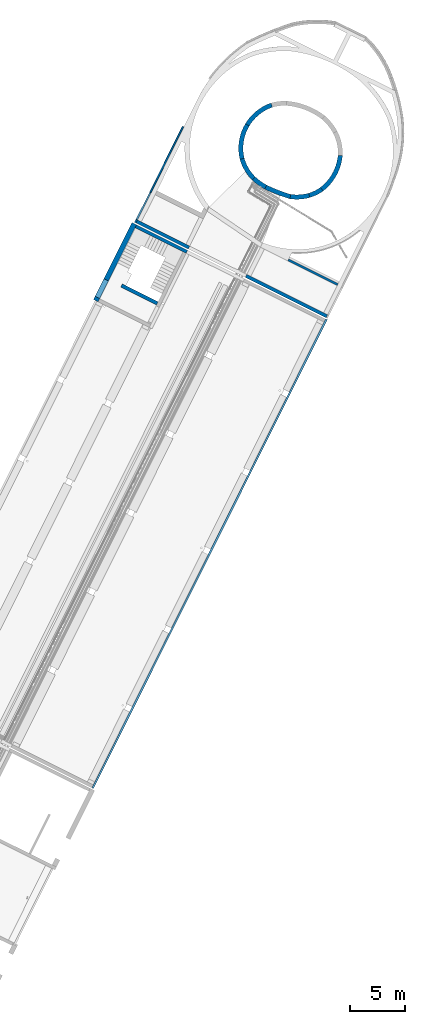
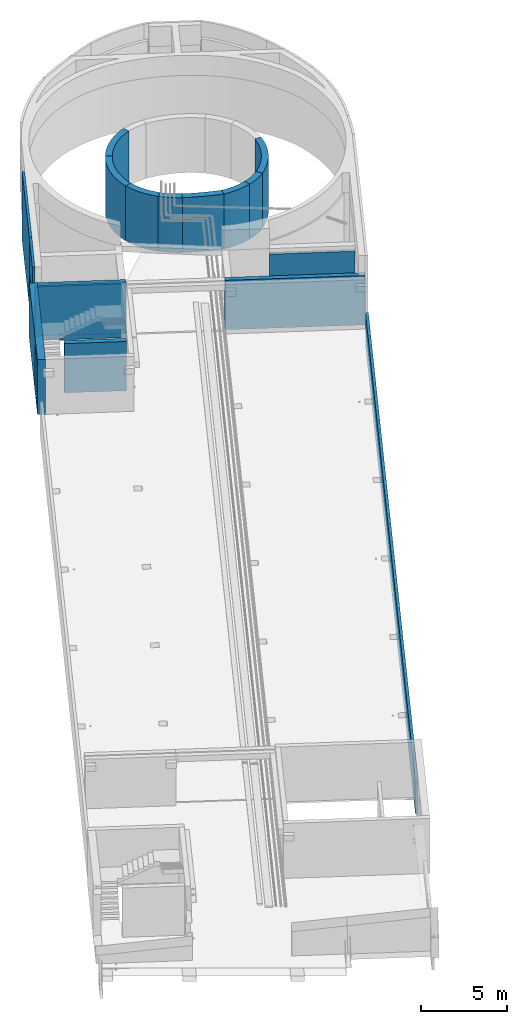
# One storey, part 8 of 47: 17 walls, 3 openings.
"""IFC2X3 building model written with IfcOpenShell, lengths in metres."""

from ifc_helpers import new_model, entity, si_unit, converted_unit, derived_unit, direction, frame, frame_2d, origin, place, context, subcontext, project, spatial, polyline, circle_curve, parameter, trimmed, segment, composite_curve, rectangle, outline, extrude, clip, bounded_halfspace, material, layer, layer_set, layer_usage, type_object, element, save


model = new_model("IFC2X3")

# Units and contexts
model_context = context("Model", 3, precision=1e-05, world=origin(), true_north=direction((0.894925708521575, 0.446215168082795)))
context_of_model = context(None, 3, precision=1e-05, world=origin(), true_north=direction((0.894925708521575, 0.446215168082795)))
body_context = subcontext(model_context, "Body", "Model", "MODEL_VIEW")
ifc_project = project(units=[si_unit("LENGTHUNIT", "METRE"), si_unit("AREAUNIT", "SQUARE_METRE"), si_unit("VOLUMEUNIT", "CUBIC_METRE"), converted_unit("PLANEANGLEUNIT", "DEGREE", entity("IfcRatioMeasure", 0.0174532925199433), si_unit("PLANEANGLEUNIT", "RADIAN"), dimensions=[0, 0, 0, 0, 0, 0, 0]), si_unit("MASSUNIT", "GRAM", prefix="KILO"), si_unit("TIMEUNIT", "SECOND"), si_unit("FREQUENCYUNIT", "HERTZ"), si_unit("THERMODYNAMICTEMPERATUREUNIT", "DEGREE_CELSIUS"), derived_unit("THERMALTRANSMITTANCEUNIT", [(si_unit("MASSUNIT", "GRAM", prefix="KILO"), 1), (si_unit("THERMODYNAMICTEMPERATUREUNIT", "KELVIN"), -1), (si_unit("TIMEUNIT", "SECOND"), -3)]), derived_unit("VOLUMETRICFLOWRATEUNIT", [(si_unit("LENGTHUNIT", "METRE"), 3), (si_unit("TIMEUNIT", "SECOND"), -1)]), si_unit("ELECTRICCURRENTUNIT", "AMPERE"), si_unit("ELECTRICVOLTAGEUNIT", "VOLT"), si_unit("POWERUNIT", "WATT"), si_unit("FORCEUNIT", "NEWTON", prefix="KILO"), si_unit("ILLUMINANCEUNIT", "LUX"), si_unit("LUMINOUSFLUXUNIT", "LUMEN"), si_unit("LUMINOUSINTENSITYUNIT", "CANDELA"), si_unit("PRESSUREUNIT", "PASCAL")], contexts=[model_context, context_of_model])

# Site, building, storey
site_placement = place(None, frame((218.228324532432, 584.720189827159, 0.0), z_axis=(0.0, 0.0, 1.0), x_axis=(0.446215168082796, 0.894925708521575, 0.0)))
site = spatial("IfcSite", under=ifc_project, at=site_placement, Name="Default", CompositionType="ELEMENT")
building_placement = place(site_placement, origin())
building = spatial("IfcBuilding", under=site, at=building_placement, CompositionType="ELEMENT")
storey_placement = place(building_placement, frame((0.0, 0.0, 4.69)))
storey = spatial("IfcBuildingStorey", under=building, at=storey_placement, Name="1 - Piano Primo", CompositionType="ELEMENT", Elevation=4.69)

# Wall, opening
ifc_material_1 = material(Name="Alluminio")
ifc_layer_1 = layer(ifc_material_1, 0.15)
ifc_material_2 = material(Name="Default - Calcestruzzo")
ifc_layer_2 = layer(ifc_material_2, 0.3)
ifc_material_3 = material(Name="Intonaco - Bianco")
ifc_layer_3 = layer(ifc_material_3, 0.02)
ifc_layer_set_1 = layer_set([ifc_layer_1, ifc_layer_2, ifc_layer_3], Name="Muro di base:Setto CA rivestito int-est 47 cm")
ifc_layer_usage_1 = layer_usage(ifc_layer_set_1, "AXIS2", "NEGATIVE", 0.235)
wall_type_1 = type_object("IfcWallType", Name="Muro di base:Setto CA rivestito int-est 47 cm", PredefinedType="STANDARD", material=ifc_layer_set_1)
wall_1_placement = place(storey_placement, frame((51.0059369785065, 6.2239210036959, 0.0)))
wall_1 = element("IfcWallStandardCase", 1, at=wall_1_placement, inside=storey, type_object=wall_type_1, material=ifc_layer_usage_1, Name="Muro di base:Setto CA rivestito int-est 47 cm", ObjectType="Muro di base:Setto CA rivestito int-est 47 cm", context=body_context, shape_type="SweptSolid", body=[
    extrude(rectangle(XDim=7.82999999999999, YDim=0.469999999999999, at=frame_2d((3.91499999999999, 0.0), x_axis=(-1.0, 0.0))), origin(), (0.0, 0.0, 1.0), 3.92),
])
opening_1_placement = place(wall_1_placement, frame((0.319999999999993, -1.289, 0.159999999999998)))
element("IfcOpeningElement", 2, at=opening_1_placement, cuts=wall_1, Name="Muro di base:Setto CA rivestito int-est 47 cm", ObjectType="Opening", context=body_context, shape_type="SweptSolid", body=[
    extrude(rectangle(XDim=3.35, YDim=1.8, at=frame_2d((2.22044604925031e-16, 4.32986979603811e-15), x_axis=(1.0, 0.0))), frame((0.900000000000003, 0.0, 1.675), z_axis=(0.0, 1.0, 0.0), x_axis=(0.0, 0.0, -1.0)), (0.0, 0.0, 1.0), 3.048),
])

# Walls
ifc_layer_4 = layer(ifc_material_2, 0.3)
ifc_layer_5 = layer(ifc_material_3, 0.01)
ifc_layer_set_2 = layer_set([ifc_layer_4, ifc_layer_5], Name="Muro di base:Setto CA rivestito int - 31 cm")
ifc_layer_usage_2 = layer_usage(ifc_layer_set_2, "AXIS2", "NEGATIVE", 0.155)
wall_type_2 = type_object("IfcWallType", Name="Muro di base:Setto CA rivestito int - 31 cm", PredefinedType="STANDARD", material=ifc_layer_set_2)
wall_2_placement = place(storey_placement, frame((58.6809369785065, 5.9889210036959, 0.0), z_axis=(0.0, 0.0, 1.0), x_axis=(0.0, -1.0, 0.0)))
element("IfcWallStandardCase", 3, at=wall_2_placement, inside=storey, type_object=wall_type_2, material=ifc_layer_usage_2, Name="Muro di base:Setto CA rivestito int - 31 cm", ObjectType="Muro di base:Setto CA rivestito int - 31 cm", context=body_context, shape_type="SweptSolid", body=[
    extrude(rectangle(XDim=5.19000000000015, YDim=0.309999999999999, at=frame_2d((2.59500000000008, 0.0), x_axis=(-1.0, 0.0))), origin(), (0.0, 0.0, 1.0), 3.92),
])
ifc_layer_6 = layer(ifc_material_3, 0.01)
ifc_layer_7 = layer(ifc_material_2, 0.4)
ifc_layer_set_3 = layer_set([ifc_layer_6, ifc_layer_7], Name="Muro di base:Setto CA intonacato int - 41 cm")
ifc_layer_usage_3 = layer_usage(ifc_layer_set_3, "AXIS2", "POSITIVE", -0.205)
wall_type_3 = type_object("IfcWallType", Name="Muro di base:Setto CA intonacato int - 41 cm", PredefinedType="STANDARD", material=ifc_layer_set_3)
wall_3_placement = place(storey_placement, frame((72.7535282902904, -7.76748426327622, 0.0), z_axis=(0.0, 0.0, 1.0), x_axis=(-0.432595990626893, -0.901587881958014, 0.0)))
element("IfcWallStandardCase", 4, at=wall_3_placement, inside=storey, type_object=wall_type_3, material=ifc_layer_usage_3, Name="Muro di base:Setto CA intonacato int - 41 cm", ObjectType="Muro di base:Setto CA intonacato int - 41 cm", context=body_context, shape_type="SweptSolid", body=[
    extrude(outline(composite_curve([segment(trimmed(circle_curve(frame_2d((-3.01054474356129, -3.21887026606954), x_axis=(1.0, 0.0)), 4.61232406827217), [parameter(359.999999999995)], [parameter(46.9153847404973)], True, "PARAMETER"), True, "CONTINUOUS"), segment(polyline([(0.140030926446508, 0.149720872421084), (-0.133743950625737, -0.15561304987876)]), True, "CONTINUOUS"), segment(trimmed(circle_curve(frame_2d((-3.01054474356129, -3.21887026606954), x_axis=(1.0, 0.0)), 4.20232406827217), [parameter(0.114022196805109)], [parameter(46.7979049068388)], True, "PARAMETER"), False, "CONTINUOUS"), segment(polyline([(1.19177100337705, -3.21050738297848), (1.60177932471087, -3.21887026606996)]), True, "CONTINUOUS")], self_intersect=False)), origin(), (0.0, 0.0, 1.0), 3.92),
])
ifc_layer_usage_4 = layer_usage(ifc_layer_set_3, "AXIS2", "POSITIVE", -0.205)
wall_4_placement = place(storey_placement, frame((71.4703263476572, 1.0328184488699, 0.0), z_axis=(0.0, 0.0, 1.0), x_axis=(0.700325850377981, 0.713823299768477, 0.0)))
element("IfcWallStandardCase", 5, at=wall_4_placement, inside=storey, type_object=wall_type_3, material=ifc_layer_usage_4, Name="Muro di base:Setto CA intonacato int - 41 cm", ObjectType="Muro di base:Setto CA intonacato int - 41 cm", context=body_context, shape_type="SweptSolid", body=[
    extrude(outline(composite_curve([segment(trimmed(circle_curve(frame_2d((-3.22612707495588, -2.68645145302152), x_axis=(1.0, 0.0)), 4.40320405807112), [parameter(359.999999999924)], [parameter(39.784730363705)], True, "PARAMETER"), True, "CONTINUOUS"), segment(polyline([(0.157533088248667, 0.131180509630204), (-0.156956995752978, -0.131872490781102)]), True, "CONTINUOUS"), segment(trimmed(circle_curve(frame_2d((-3.22612707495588, -2.68645145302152), x_axis=(1.0, 0.0)), 3.99320405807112), [parameter(0.165656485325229)], [parameter(39.7718111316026)], True, "PARAMETER"), False, "CONTINUOUS"), segment(polyline([(0.767060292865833, -2.67490611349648), (1.17707698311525, -2.68645145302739)]), True, "CONTINUOUS")], self_intersect=False)), origin(), (0.0, 0.0, 1.0), 3.92),
])
ifc_layer_usage_5 = layer_usage(ifc_layer_set_3, "AXIS2", "POSITIVE", -0.205)
wall_5_placement = place(storey_placement, frame((67.3641992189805, -1.66068029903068, 0.0), z_axis=(0.0, 0.0, 1.0), x_axis=(-0.727124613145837, 0.686505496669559, 0.0)))
element("IfcWallStandardCase", 6, at=wall_5_placement, inside=storey, type_object=wall_type_3, material=ifc_layer_usage_5, Name="Muro di base:Setto CA intonacato int - 41 cm", ObjectType="Muro di base:Setto CA intonacato int - 41 cm", context=body_context, shape_type="SweptSolid", body=[
    extrude(outline(composite_curve([segment(trimmed(circle_curve(frame_2d((-3.78593377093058, -1.75768012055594), x_axis=(1.0, 0.0)), 4.37905485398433), [parameter(356.075090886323)], [parameter(24.9038369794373)], True, "PARAMETER"), True, "CONTINUOUS"), segment(polyline([(0.18593824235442, 0.086324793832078), (-0.183564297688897, -0.0914476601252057)]), True, "CONTINUOUS"), segment(trimmed(circle_curve(frame_2d((-3.78593377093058, -1.75768012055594), x_axis=(1.0, 0.0)), 3.96905485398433), [parameter(356.222668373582)], [parameter(24.8223308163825)], True, "PARAMETER"), False, "CONTINUOUS"), segment(polyline([(0.174498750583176, -2.01915799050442), (0.582850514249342, -2.05742214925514)]), True, "CONTINUOUS")], self_intersect=False)), origin(), (0.0, 0.0, 1.0), 3.92),
])
ifc_layer_usage_6 = layer_usage(ifc_layer_set_3, "AXIS2", "POSITIVE", -0.205)
wall_6_placement = place(storey_placement, frame((67.1496078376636, -3.00064880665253, 0.0), z_axis=(0.0, 0.0, 1.0), x_axis=(-0.956988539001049, 0.29012572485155, 0.0)))
element("IfcWallStandardCase", 7, at=wall_6_placement, inside=storey, type_object=wall_type_3, material=ifc_layer_usage_6, Name="Muro di base:Setto CA intonacato int - 41 cm", ObjectType="Muro di base:Setto CA intonacato int - 41 cm", context=body_context, shape_type="SweptSolid", body=[
    extrude(outline(composite_curve([segment(trimmed(circle_curve(frame_2d((-4.88110562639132, -1.35026256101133), x_axis=(1.0, 0.0)), 5.26942505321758), [parameter(359.999999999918)], [parameter(15.4630661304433)], True, "PARAMETER"), True, "CONTINUOUS"), segment(polyline([(0.197579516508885, 0.0546565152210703), (-0.195611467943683, -0.0617920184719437)]), True, "CONTINUOUS"), segment(trimmed(circle_curve(frame_2d((-4.88110562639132, -1.35026256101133), x_axis=(1.0, 0.0)), 4.85942505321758), [parameter(0.0671506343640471)], [parameter(15.3757925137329)], True, "PARAMETER"), False, "CONTINUOUS"), segment(polyline([(-0.0216839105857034, -1.34456731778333), (0.388319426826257, -1.35026256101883)]), True, "CONTINUOUS")], self_intersect=False)), origin(), (0.0, 0.0, 1.0), 3.92),
])
ifc_layer_usage_7 = layer_usage(ifc_layer_set_3, "AXIS2", "POSITIVE", -0.205)
wall_7_placement = place(storey_placement, frame((67.3758956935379, -5.39443917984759, 0.0), z_axis=(0.0, 0.0, 1.0), x_axis=(-0.999926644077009, -0.0121122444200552, 0.0)))
element("IfcWallStandardCase", 8, at=wall_7_placement, inside=storey, type_object=wall_type_3, material=ifc_layer_usage_7, Name="Muro di base:Setto CA intonacato int - 41 cm", ObjectType="Muro di base:Setto CA intonacato int - 41 cm", context=body_context, shape_type="SweptSolid", body=[
    extrude(outline(composite_curve([segment(trimmed(circle_curve(frame_2d((-14.5573128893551, -2.40385476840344), x_axis=(1.0, 0.0)), 14.9594527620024), [parameter(7.63333123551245e-13)], [parameter(9.37665779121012)], True, "PARAMETER"), True, "CONTINUOUS"), segment(polyline([(0.202260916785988, 0.0333994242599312), (-0.197289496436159, -0.0637043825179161)]), True, "CONTINUOUS"), segment(trimmed(circle_curve(frame_2d((-14.5573128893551, -2.40385476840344), x_axis=(1.0, 0.0)), 14.5494527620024), [parameter(0.0299347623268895)], [parameter(9.2557216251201)], True, "PARAMETER"), False, "CONTINUOUS"), segment(polyline([(-0.0078621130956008, -2.39625325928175), (0.402139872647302, -2.40385476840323)]), True, "CONTINUOUS")], self_intersect=False)), origin(), (0.0, 0.0, 1.0), 3.92),
])
ifc_layer_usage_8 = layer_usage(ifc_layer_set_3, "AXIS2", "POSITIVE", -0.205)
wall_8_placement = place(storey_placement, frame((68.2405251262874, -6.86210125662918, 0.0), z_axis=(0.0, 0.0, 1.0), x_axis=(-0.948364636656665, -0.31718214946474, 0.0)))
element("IfcWallStandardCase", 9, at=wall_8_placement, inside=storey, type_object=wall_type_3, material=ifc_layer_usage_8, Name="Muro di base:Setto CA intonacato int - 41 cm", ObjectType="Muro di base:Setto CA intonacato int - 41 cm", context=body_context, shape_type="SweptSolid", body=[
    extrude(outline(composite_curve([segment(trimmed(circle_curve(frame_2d((-3.90742253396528, -1.69614852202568), x_axis=(1.0, 0.0)), 4.4646796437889), [parameter(2.3103549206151e-11)], [parameter(23.4648800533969)], True, "PARAMETER"), True, "CONTINUOUS"), segment(polyline([(0.188047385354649, 0.0816283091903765), (-0.186482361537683, -0.0852384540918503)]), True, "CONTINUOUS"), segment(trimmed(circle_curve(frame_2d((-3.90742253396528, -1.69614852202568), x_axis=(1.0, 0.0)), 4.0546796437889), [parameter(0.419338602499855)], [parameter(23.4092786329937)], True, "PARAMETER"), False, "CONTINUOUS"), segment(polyline([(0.147148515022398, -1.66647323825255), (0.557257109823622, -1.69614852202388)]), True, "CONTINUOUS")], self_intersect=False)), origin(), (0.0, 0.0, 1.0), 3.92),
])
ifc_layer_usage_9 = layer_usage(ifc_layer_set_3, "AXIS2", "POSITIVE", -0.205)
wall_9_placement = place(storey_placement, frame((69.2546324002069, -7.63809080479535, 0.0), z_axis=(0.0, 0.0, 1.0), x_axis=(-0.730703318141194, -0.682695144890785, 0.0)))
element("IfcWallStandardCase", 10, at=wall_9_placement, inside=storey, type_object=wall_type_3, material=ifc_layer_usage_9, Name="Muro di base:Setto CA intonacato int - 41 cm", ObjectType="Muro di base:Setto CA intonacato int - 41 cm", context=body_context, shape_type="SweptSolid", body=[
    extrude(outline(composite_curve([segment(trimmed(circle_curve(frame_2d((-3.67227557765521, -1.26326947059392), x_axis=(1.0, 0.0)), 4.08848524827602), [parameter(359.999999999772)], [parameter(18.9833101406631)], True, "PARAMETER"), True, "CONTINUOUS"), segment(polyline([(0.193850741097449, 0.0666850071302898), (-0.191156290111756, -0.0745465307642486)]), True, "CONTINUOUS"), segment(trimmed(circle_curve(frame_2d((-3.67227557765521, -1.26326947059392), x_axis=(1.0, 0.0)), 3.67848524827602), [parameter(0.0610019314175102)], [parameter(18.8538671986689)], True, "PARAMETER"), False, "CONTINUOUS"), segment(polyline([(0.00620758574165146, -1.2593530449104), (0.416209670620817, -1.2632694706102)]), True, "CONTINUOUS")], self_intersect=False)), origin(), (0.0, 0.0, 1.0), 3.92),
])
ifc_layer_usage_10 = layer_usage(ifc_layer_set_3, "AXIS2", "POSITIVE", -0.205)
wall_10_placement = place(storey_placement, frame((68.4842258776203, 0.0781020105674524, 0.0)))
element("IfcWallStandardCase", 11, at=wall_10_placement, inside=storey, type_object=wall_type_3, material=ifc_layer_usage_10, Name="Muro di base:Setto CA intonacato int - 41 cm", ObjectType="Muro di base:Setto CA intonacato int - 41 cm", context=body_context, shape_type="SweptSolid", body=[
    extrude(outline(composite_curve([segment(polyline([(-0.131399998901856, 0.157350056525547), (0.139254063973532, -0.150808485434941)]), True, "CONTINUOUS"), segment(trimmed(circle_curve(frame_2d((2.66661045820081, -3.19323675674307), x_axis=(1.0, 0.0)), 3.95523705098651), [parameter(85.5962125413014)], [parameter(129.716537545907)], True, "PARAMETER"), False, "CONTINUOUS"), segment(polyline([(2.97031308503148, 0.750323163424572), (3.00278525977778, 1.15903632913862)]), True, "CONTINUOUS"), segment(trimmed(circle_curve(frame_2d((2.66661045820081, -3.19323675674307), x_axis=(1.0, 0.0)), 4.36523705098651), [parameter(85.5831751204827)], [parameter(129.864606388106)], True, "PARAMETER"), True, "CONTINUOUS")], self_intersect=False)), origin(), (0.0, 0.0, 1.0), 3.92),
])
ifc_material_4 = material(Name="Sabbia e Calcestruzzo")
ifc_layer_8 = layer(ifc_material_4, 0.2)
ifc_layer_set_4 = layer_set([ifc_layer_8], Name="Muro di base:Blocchetti - 20 cm")
ifc_layer_usage_11 = layer_usage(ifc_layer_set_4, "AXIS2", "NEGATIVE", 0.1)
wall_type_4 = type_object("IfcWallType", Name="Muro di base:Blocchetti - 20 cm", PredefinedType="STANDARD", material=ifc_layer_set_4)
wall_11_placement = place(storey_placement, frame((62.1360591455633, -7.781081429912, 0.0), z_axis=(0.0, 0.0, 1.0), x_axis=(-2.43360728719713e-05, -1.0, 0.0)))
element("IfcWallStandardCase", 12, at=wall_11_placement, inside=storey, type_object=wall_type_4, material=ifc_layer_usage_11, Name="Muro di base:Blocchetti - 20 cm", ObjectType="Muro di base:Blocchetti - 20 cm", context=body_context, shape_type="SweptSolid", body=[
    extrude(rectangle(XDim=5.02000000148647, YDim=0.199999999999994, at=frame_2d((2.51000000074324, 0.0), x_axis=(-1.0, 0.0))), origin(), (0.0, 0.0, 1.0), 3.12),
])

# Wall, opening
ifc_layer_9 = layer(ifc_material_1, 0.15)
ifc_layer_set_5 = layer_set([ifc_layer_9], Name="Muro di base:Rivestimento 15 cm")
ifc_layer_usage_12 = layer_usage(ifc_layer_set_5, "AXIS2", "NEGATIVE", 0.075)
wall_type_5 = type_object("IfcWallType", Name="Muro di base:Rivestimento 15 cm", PredefinedType="STANDARD", material=ifc_layer_set_5)
wall_12_placement = place(storey_placement, frame((58.9662239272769, 6.19392045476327, 0.0), z_axis=(0.0, 0.0, 1.0), x_axis=(0.999992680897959, -0.00382598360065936, 0.0)))
wall_12 = element("IfcWallStandardCase", 13, at=wall_12_placement, inside=storey, type_object=wall_type_5, material=ifc_layer_usage_12, Name="Muro di base:Rivestimento 15 cm", ObjectType="Muro di base:Rivestimento 15 cm", context=body_context, shape_type="SweptSolid", body=[
    extrude(outline(polyline([(3.07002246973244, -0.075), (3.06959885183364, 0.0749999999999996), (0.0, 0.0749999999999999), (0.0, -0.0749999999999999), (3.07002246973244, -0.075)])), origin(), (0.0, 0.0, 1.0), 4.95),
])
opening_2_placement = place(wall_12_placement, frame((0.310040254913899, -1.60952137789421, 1.0)))
element("IfcOpeningElement", 14, at=opening_2_placement, cuts=wall_12, Name="Muro di base:Rivestimento 15 cm", ObjectType="Opening", context=body_context, shape_type="SweptSolid", body=[
    extrude(rectangle(XDim=1.6, YDim=2.74999999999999, at=frame_2d((0.0, 0.0), x_axis=(0.0, 1.0))), frame((1.37495974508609, 0.0105213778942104, 0.799999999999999), z_axis=(0.0, 1.0, 0.0), x_axis=(1.0, 0.0, 0.0)), (0.0, 0.0, 1.0), 3.048),
])

# Wall
ifc_layer_usage_13 = layer_usage(ifc_layer_set_5, "AXIS2", "NEGATIVE", 0.075)
wall_13_placement = place(storey_placement, frame((62.0358003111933, 6.18217502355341, 0.0), z_axis=(0.0, 0.0, 1.0), x_axis=(0.999998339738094, 0.00182222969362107, 0.0)))
element("IfcWallStandardCase", 15, at=wall_13_placement, inside=storey, type_object=wall_type_5, material=ifc_layer_usage_13, Name="Muro di base:Rivestimento 15 cm", ObjectType="Muro di base:Rivestimento 15 cm", context=body_context, shape_type="SweptSolid", body=[
    extrude(outline(polyline([(6.67832109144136, -0.0750000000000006), (6.67832109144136, 0.0749999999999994), (0.000423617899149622, 0.0749999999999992), (0.0, -0.0750000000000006), (6.67832109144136, -0.0750000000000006)])), origin(), (0.0, 0.0, 1.0), 4.95),
])

# Wall, opening
ifc_layer_10 = layer(ifc_material_2, 0.17)
ifc_layer_set_6 = layer_set([ifc_layer_10], Name="Muro di base:Pannelli Pref - 17 cm")
ifc_layer_usage_14 = layer_usage(ifc_layer_set_6, "AXIS2", "POSITIVE", -0.085)
wall_type_6 = type_object("IfcWallType", Name="Muro di base:Pannelli Pref - 17 cm", PredefinedType="STANDARD", material=ifc_layer_set_6)
wall_14_placement = place(storey_placement, frame((11.1942149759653, -13.2960789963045, -1.47)))
wall_14 = element("IfcWallStandardCase", 16, at=wall_14_placement, inside=storey, type_object=wall_type_6, material=ifc_layer_usage_14, Name="Muro di base:Pannelli Pref - 17 cm", ObjectType="Muro di base:Pannelli Pref - 17 cm", context=body_context, shape_type="SweptSolid", body=[
    extrude(rectangle(XDim=47.6717220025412, YDim=0.17, at=frame_2d((23.8358610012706, 2.08166817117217e-16), x_axis=(-1.0, 0.0))), origin(), (0.0, 0.0, 1.0), 2.4),
])
opening_3_placement = place(storey_placement, frame((11.1942149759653, -13.2960789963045, -1.47)))
element("IfcOpeningElement", 17, at=opening_3_placement, cuts=wall_14, Name="Muro di base:Pannelli Pref - 17 cm:1", ObjectType="Opening", context=body_context, shape_type="SweptSolid", body=[
    extrude(rectangle(XDim=0.410000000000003, YDim=0.0499999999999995, at=frame_2d((1.08246744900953e-15, 0.0), x_axis=(0.0, 1.0))), frame((32.2253873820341, 0.0600000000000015, 0.205000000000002), z_axis=(1.0, 0.0, 0.0), x_axis=(0.0, -1.0, 0.0)), (0.0, 0.0, 1.0), 0.0600000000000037),
])

# Walls
ifc_layer_11 = layer(ifc_material_3, 0.01)
ifc_layer_12 = layer(ifc_material_2, 0.3)
ifc_layer_13 = layer(ifc_material_3, 0.01)
ifc_layer_set_7 = layer_set([ifc_layer_11, ifc_layer_12, ifc_layer_13], Name="Muro di base:Setto CA rivestito int - est 32 cm")
ifc_layer_usage_15 = layer_usage(ifc_layer_set_7, "AXIS2", "POSITIVE", -0.16)
wall_type_7 = type_object("IfcWallType", Name="Muro di base:Setto CA rivestito int - est 32 cm", PredefinedType="STANDARD", material=ifc_layer_set_7)
wall_15_placement = place(storey_placement, frame((53.2859369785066, 4.75392100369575, 0.0), z_axis=(0.0, 0.0, 1.0), x_axis=(0.0, -1.0, 0.0)))
element("IfcWallStandardCase", 18, at=wall_15_placement, inside=storey, type_object=wall_type_7, material=ifc_layer_usage_15, Name="Muro di base:Setto CA rivestito int - est 32 cm", ObjectType="Muro di base:Setto CA rivestito int - est 32 cm", context=body_context, shape_type="Clipping", body=[
    clip(extrude(rectangle(XDim=3.64499999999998, YDim=0.319999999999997, at=frame_2d((1.82249999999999, 0.0), x_axis=(-1.0, 0.0))), origin(), (0.0, 0.0, 1.0), 3.51), bounded_halfspace(frame((0.0, -0.159999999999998, 3.51), z_axis=(0.0, 0.0, -1.0), x_axis=(0.0, -1.0, 0.0)), True, frame((0.0, -0.159999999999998, 3.51)), polyline([(0.0, 0.0), (3.64499999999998, 0.0), (3.64499999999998, 0.319999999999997), (0.0, 0.319999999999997), (0.0, 0.0)]))),
])
wall_type_8 = type_object("IfcWallType", Name="Setto C.a.9:Setto C.a.", PredefinedType="NOTDEFINED", material=ifc_material_2)
wall_16_placement = place(storey_placement, frame((58.9659369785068, -13.2010789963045, 0.0), z_axis=(0.0, 0.0, 1.0), x_axis=(0.0, 1.0, 0.0)))
element("IfcWall", 19, at=wall_16_placement, inside=storey, type_object=wall_type_8, material=ifc_material_2, Name="Setto C.a.9:Setto C.a.", ObjectType="Setto C.a.9:Setto C.a.", context=body_context, shape_type="SweptSolid", body=[
    extrude(rectangle(XDim=0.300000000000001, YDim=8.19999999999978, at=frame_2d((0.0, -4.44089209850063e-16), x_axis=(1.0, 0.0))), frame((4.09999999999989, -0.150000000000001, 0.0), z_axis=(0.0, 0.0, 1.0), x_axis=(0.0, 1.0, 0.0)), (0.0, 0.0, 1.0), 3.52),
])
wall_type_9 = type_object("IfcWallType", Name="Setto C.a.19:Setto C.a.", PredefinedType="NOTDEFINED", material=ifc_material_2)
wall_17_placement = place(storey_placement, frame((58.9659369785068, 0.798921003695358, 0.0), z_axis=(0.0, 0.0, 1.0), x_axis=(0.0, 1.0, 0.0)))
element("IfcWall", 20, at=wall_17_placement, inside=storey, type_object=wall_type_9, material=ifc_material_2, Name="Setto C.a.19:Setto C.a.", ObjectType="Setto C.a.19:Setto C.a.", context=body_context, shape_type="SweptSolid", body=[
    extrude(rectangle(XDim=0.300000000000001, YDim=5.31799364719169, at=frame_2d((0.0, 6.66133814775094e-16), x_axis=(1.0, 0.0))), frame((2.65899682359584, -0.150000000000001, 0.0), z_axis=(0.0, 0.0, 1.0), x_axis=(0.0, 1.0, 0.0)), (0.0, 0.0, 1.0), 3.52),
])

save(model, "model.ifc")
